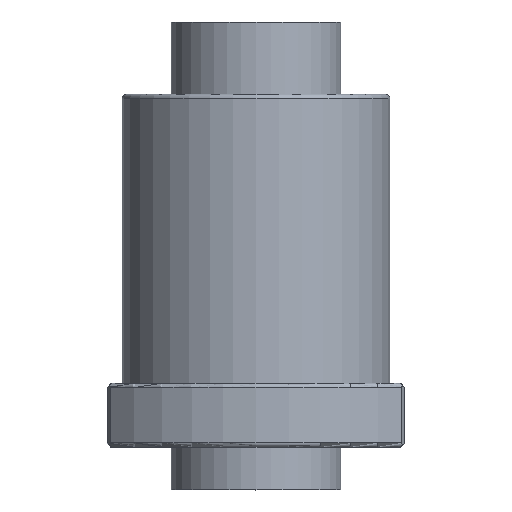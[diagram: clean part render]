
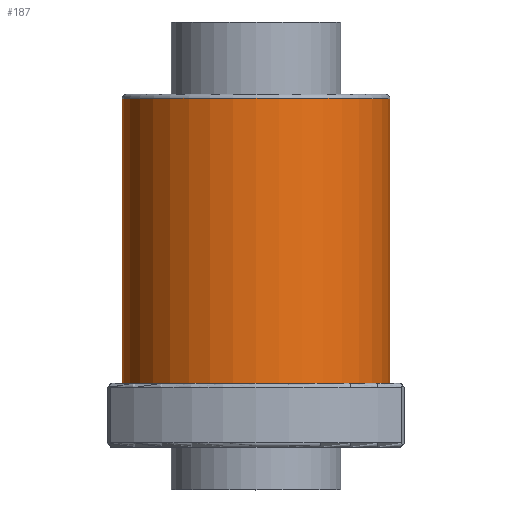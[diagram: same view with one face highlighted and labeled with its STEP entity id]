
A CAD part, top view. The second image highlights one B-rep face of the part: STEP entity #187.
In plain terms, the highlighted cylindrical face has radius 31.5 mm (diameter 63 mm), a full revolution.
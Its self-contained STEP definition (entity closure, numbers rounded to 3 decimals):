
#187=ADVANCED_FACE('',(#282,#283),#237,.T.);
#237=CYLINDRICAL_SURFACE('',#934,31.5);
#282=FACE_BOUND('',#382,.T.);
#283=FACE_BOUND('',#383,.T.);
#382=EDGE_LOOP('',(#512));
#383=EDGE_LOOP('',(#513));
#512=ORIENTED_EDGE('',*,*,#779,.T.);
#513=ORIENTED_EDGE('',*,*,#746,.F.);
#667=VERTEX_POINT('',#1298);
#700=VERTEX_POINT('',#1377);
#746=EDGE_CURVE('',#667,#667,#837,.T.);
#779=EDGE_CURVE('',#700,#700,#858,.T.);
#837=CIRCLE('',#899,31.5);
#858=CIRCLE('',#933,31.5);
#899=AXIS2_PLACEMENT_3D('',#1297,#1050,#1051);
#933=AXIS2_PLACEMENT_3D('',#1376,#1130,#1131);
#934=AXIS2_PLACEMENT_3D('',#1378,#1132,#1133);
#1050=DIRECTION('',(0.,-1.,0.));
#1051=DIRECTION('',(0.,0.,1.));
#1130=DIRECTION('',(0.,-1.,0.));
#1131=DIRECTION('',(0.,0.,-1.));
#1132=DIRECTION('',(0.,1.,0.));
#1133=DIRECTION('',(0.,0.,1.));
#1297=CARTESIAN_POINT('',(0.,15.,0.));
#1298=CARTESIAN_POINT('',(0.,15.,31.5));
#1376=CARTESIAN_POINT('',(0.,82.,0.));
#1377=CARTESIAN_POINT('',(0.,82.,-31.5));
#1378=CARTESIAN_POINT('',(0.,0.,0.));
